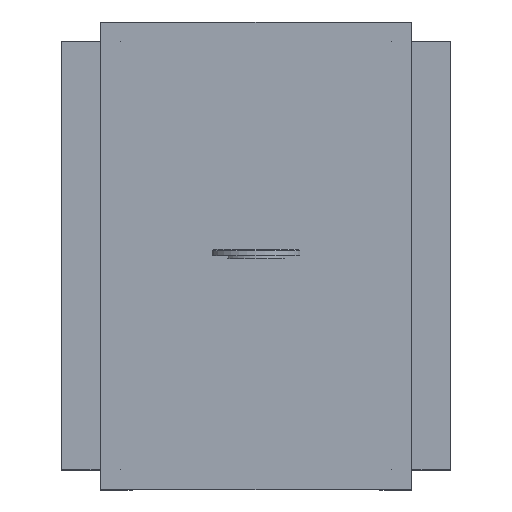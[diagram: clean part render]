
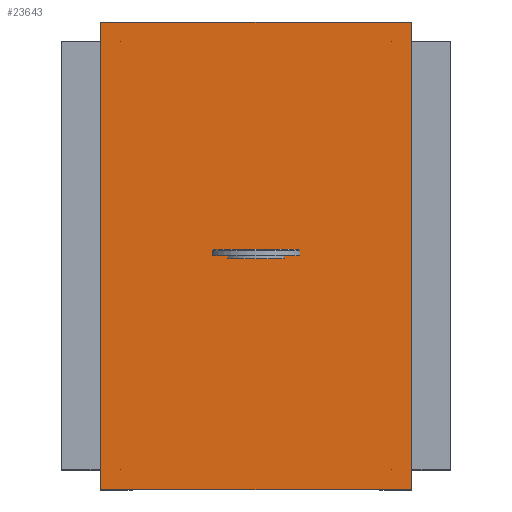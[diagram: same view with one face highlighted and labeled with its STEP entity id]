
A CAD part, top view. The second image highlights one B-rep face of the part: STEP entity #23643.
In plain terms, the highlighted planar face has unit normal (0, 0, 1).
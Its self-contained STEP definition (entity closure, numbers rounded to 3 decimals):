
#23329 = VERTEX_POINT('',#23330);
#23330 = CARTESIAN_POINT('',(-198.,-298.,402.));
#23337 = PLANE('',#23338);
#23338 = AXIS2_PLACEMENT_3D('',#23339,#23340,#23341);
#23339 = CARTESIAN_POINT('',(-198.,-298.,392.));
#23340 = DIRECTION('',(1.,0.,0.));
#23341 = DIRECTION('',(0.,0.,1.));
#23349 = PLANE('',#23350);
#23350 = AXIS2_PLACEMENT_3D('',#23351,#23352,#23353);
#23351 = CARTESIAN_POINT('',(-198.,-298.,392.));
#23352 = DIRECTION('',(0.,1.,0.));
#23353 = DIRECTION('',(0.,0.,1.));
#23390 = VERTEX_POINT('',#23391);
#23391 = CARTESIAN_POINT('',(-198.,298.,402.));
#23405 = PLANE('',#23406);
#23406 = AXIS2_PLACEMENT_3D('',#23407,#23408,#23409);
#23407 = CARTESIAN_POINT('',(-198.,298.,392.));
#23408 = DIRECTION('',(0.,1.,0.));
#23409 = DIRECTION('',(0.,0.,1.));
#23417 = EDGE_CURVE('',#23329,#23390,#23418,.T.);
#23418 = SURFACE_CURVE('',#23419,(#23423,#23430),.PCURVE_S1.);
#23419 = LINE('',#23420,#23421);
#23420 = CARTESIAN_POINT('',(-198.,-298.,402.));
#23421 = VECTOR('',#23422,1.);
#23422 = DIRECTION('',(0.,1.,0.));
#23423 = PCURVE('',#23337,#23424);
#23424 = DEFINITIONAL_REPRESENTATION('',(#23425),#23429);
#23425 = LINE('',#23426,#23427);
#23426 = CARTESIAN_POINT('',(10.,0.));
#23427 = VECTOR('',#23428,1.);
#23428 = DIRECTION('',(0.,-1.));
#23429 = ( GEOMETRIC_REPRESENTATION_CONTEXT(2) 
PARAMETRIC_REPRESENTATION_CONTEXT() REPRESENTATION_CONTEXT('2D SPACE',''
  ) );
#23430 = PCURVE('',#23431,#23436);
#23431 = PLANE('',#23432);
#23432 = AXIS2_PLACEMENT_3D('',#23433,#23434,#23435);
#23433 = CARTESIAN_POINT('',(-198.,-298.,402.));
#23434 = DIRECTION('',(0.,0.,1.));
#23435 = DIRECTION('',(1.,0.,0.));
#23436 = DEFINITIONAL_REPRESENTATION('',(#23437),#23441);
#23437 = LINE('',#23438,#23439);
#23438 = CARTESIAN_POINT('',(0.,0.));
#23439 = VECTOR('',#23440,1.);
#23440 = DIRECTION('',(0.,1.));
#23441 = ( GEOMETRIC_REPRESENTATION_CONTEXT(2) 
PARAMETRIC_REPRESENTATION_CONTEXT() REPRESENTATION_CONTEXT('2D SPACE',''
  ) );
#23449 = VERTEX_POINT('',#23450);
#23450 = CARTESIAN_POINT('',(198.,-298.,402.));
#23457 = PLANE('',#23458);
#23458 = AXIS2_PLACEMENT_3D('',#23459,#23460,#23461);
#23459 = CARTESIAN_POINT('',(198.,-298.,392.));
#23460 = DIRECTION('',(1.,0.,0.));
#23461 = DIRECTION('',(0.,0.,1.));
#23500 = VERTEX_POINT('',#23501);
#23501 = CARTESIAN_POINT('',(198.,298.,402.));
#23522 = EDGE_CURVE('',#23449,#23500,#23523,.T.);
#23523 = SURFACE_CURVE('',#23524,(#23528,#23535),.PCURVE_S1.);
#23524 = LINE('',#23525,#23526);
#23525 = CARTESIAN_POINT('',(198.,-298.,402.));
#23526 = VECTOR('',#23527,1.);
#23527 = DIRECTION('',(0.,1.,0.));
#23528 = PCURVE('',#23457,#23529);
#23529 = DEFINITIONAL_REPRESENTATION('',(#23530),#23534);
#23530 = LINE('',#23531,#23532);
#23531 = CARTESIAN_POINT('',(10.,0.));
#23532 = VECTOR('',#23533,1.);
#23533 = DIRECTION('',(0.,-1.));
#23534 = ( GEOMETRIC_REPRESENTATION_CONTEXT(2) 
PARAMETRIC_REPRESENTATION_CONTEXT() REPRESENTATION_CONTEXT('2D SPACE',''
  ) );
#23535 = PCURVE('',#23431,#23536);
#23536 = DEFINITIONAL_REPRESENTATION('',(#23537),#23541);
#23537 = LINE('',#23538,#23539);
#23538 = CARTESIAN_POINT('',(396.,0.));
#23539 = VECTOR('',#23540,1.);
#23540 = DIRECTION('',(0.,1.));
#23541 = ( GEOMETRIC_REPRESENTATION_CONTEXT(2) 
PARAMETRIC_REPRESENTATION_CONTEXT() REPRESENTATION_CONTEXT('2D SPACE',''
  ) );
#23568 = EDGE_CURVE('',#23329,#23449,#23569,.T.);
#23569 = SURFACE_CURVE('',#23570,(#23574,#23581),.PCURVE_S1.);
#23570 = LINE('',#23571,#23572);
#23571 = CARTESIAN_POINT('',(-198.,-298.,402.));
#23572 = VECTOR('',#23573,1.);
#23573 = DIRECTION('',(1.,0.,0.));
#23574 = PCURVE('',#23349,#23575);
#23575 = DEFINITIONAL_REPRESENTATION('',(#23576),#23580);
#23576 = LINE('',#23577,#23578);
#23577 = CARTESIAN_POINT('',(10.,0.));
#23578 = VECTOR('',#23579,1.);
#23579 = DIRECTION('',(0.,1.));
#23580 = ( GEOMETRIC_REPRESENTATION_CONTEXT(2) 
PARAMETRIC_REPRESENTATION_CONTEXT() REPRESENTATION_CONTEXT('2D SPACE',''
  ) );
#23581 = PCURVE('',#23431,#23582);
#23582 = DEFINITIONAL_REPRESENTATION('',(#23583),#23587);
#23583 = LINE('',#23584,#23585);
#23584 = CARTESIAN_POINT('',(0.,0.));
#23585 = VECTOR('',#23586,1.);
#23586 = DIRECTION('',(1.,0.));
#23587 = ( GEOMETRIC_REPRESENTATION_CONTEXT(2) 
PARAMETRIC_REPRESENTATION_CONTEXT() REPRESENTATION_CONTEXT('2D SPACE',''
  ) );
#23615 = EDGE_CURVE('',#23390,#23500,#23616,.T.);
#23616 = SURFACE_CURVE('',#23617,(#23621,#23628),.PCURVE_S1.);
#23617 = LINE('',#23618,#23619);
#23618 = CARTESIAN_POINT('',(-198.,298.,402.));
#23619 = VECTOR('',#23620,1.);
#23620 = DIRECTION('',(1.,0.,0.));
#23621 = PCURVE('',#23405,#23622);
#23622 = DEFINITIONAL_REPRESENTATION('',(#23623),#23627);
#23623 = LINE('',#23624,#23625);
#23624 = CARTESIAN_POINT('',(10.,0.));
#23625 = VECTOR('',#23626,1.);
#23626 = DIRECTION('',(0.,1.));
#23627 = ( GEOMETRIC_REPRESENTATION_CONTEXT(2) 
PARAMETRIC_REPRESENTATION_CONTEXT() REPRESENTATION_CONTEXT('2D SPACE',''
  ) );
#23628 = PCURVE('',#23431,#23629);
#23629 = DEFINITIONAL_REPRESENTATION('',(#23630),#23634);
#23630 = LINE('',#23631,#23632);
#23631 = CARTESIAN_POINT('',(0.,596.));
#23632 = VECTOR('',#23633,1.);
#23633 = DIRECTION('',(1.,0.));
#23634 = ( GEOMETRIC_REPRESENTATION_CONTEXT(2) 
PARAMETRIC_REPRESENTATION_CONTEXT() REPRESENTATION_CONTEXT('2D SPACE',''
  ) );
#23643 = ADVANCED_FACE('',(#23644),#23431,.T.);
#23644 = FACE_BOUND('',#23645,.T.);
#23645 = EDGE_LOOP('',(#23646,#23647,#23648,#23649));
#23646 = ORIENTED_EDGE('',*,*,#23417,.F.);
#23647 = ORIENTED_EDGE('',*,*,#23568,.T.);
#23648 = ORIENTED_EDGE('',*,*,#23522,.T.);
#23649 = ORIENTED_EDGE('',*,*,#23615,.F.);
